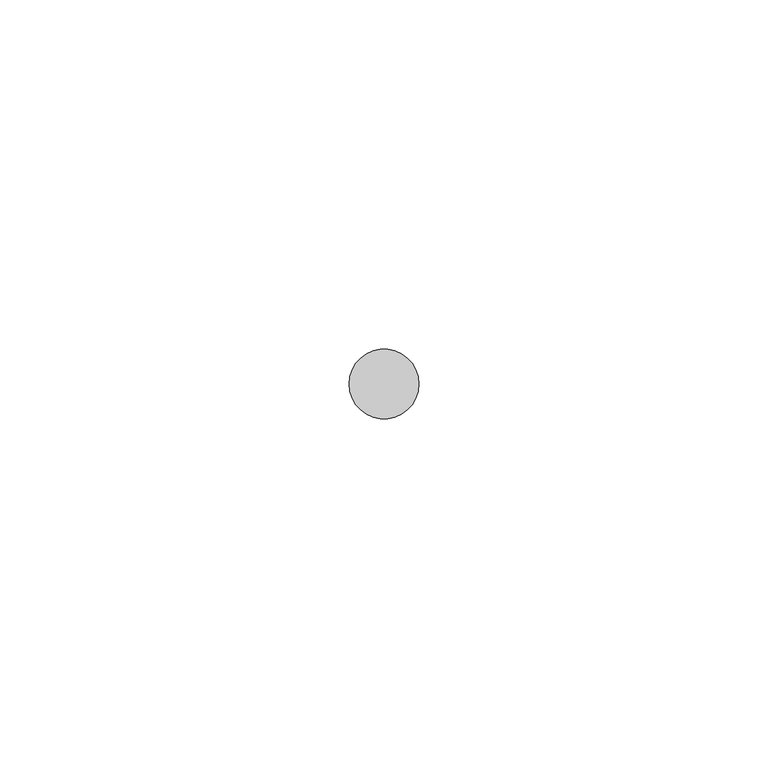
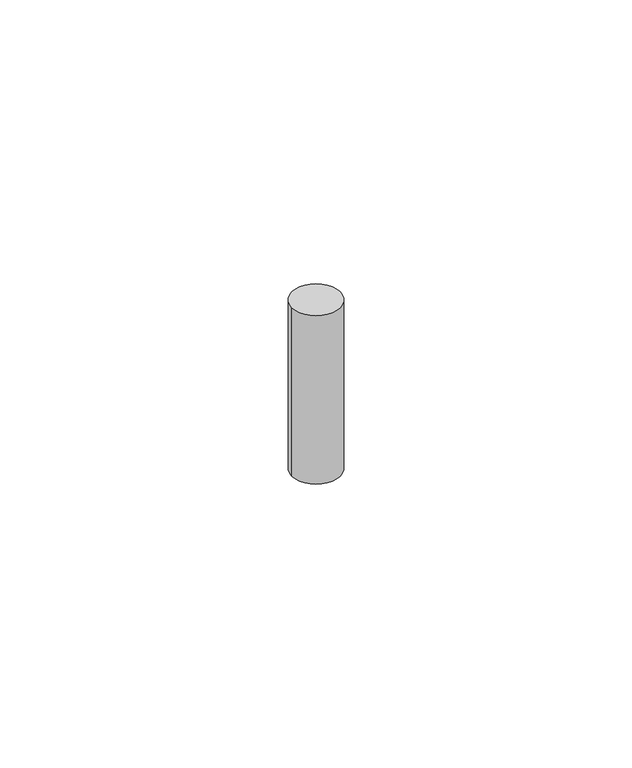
"""IFC4 building model written with IfcOpenShell, lengths in millimetres: cable carrier fitting geometry, x. Fixaçoes Eletricas_Chumbador de Expansão : Chumbador de Expansão."""

from ifc_helpers import new_model, si_unit, point, frame, origin, origin_2d, place, context, project, spatial, circle_curve, trimmed, segment, composite_curve, outline, extrude, source, transform, mapped, element, save


def cable_carrier_fitting_4bd9d3f5(model_context):
    return source(origin(), model_context, "Body", "SweptSolid", [
        extrude(outline(composite_curve([segment(trimmed(circle_curve(origin_2d(), 5.0), [point((-5.0, 0.0))], [point((5.0, 0.0))], False, "CARTESIAN"), True, "CONTINUOUS"), segment(trimmed(circle_curve(origin_2d(), 5.0), [point((5.0, 0.0))], [point((-5.0, 0.0))], False, "CARTESIAN"), True, "CONTINUOUS")], self_intersect=False)), frame((0.0, 0.0, -37.0), z_axis=(0.0, 0.0, 1.0), x_axis=(1.0, 0.0, 0.0)), (0.0, 0.0, 1.0), 37.0),
    ])


if __name__ == "__main__":
    model = new_model("IFC4")
    model_context = context("Model", 3, world=origin())
    ifc_project = project(units=[si_unit("LENGTHUNIT", "METRE", prefix="MILLI")], contexts=[model_context])
    site = spatial("IfcSite", under=ifc_project)
    building = spatial("IfcBuilding", under=site)
    placement = place(None, origin())
    cable_carrier_fitting_shape = cable_carrier_fitting_4bd9d3f5(model_context)
    element("IfcCableCarrierFitting", 1, ObjectType="x. Fixaçoes Eletricas_Chumbador de Expansão : Chumbador de Expansão", at=placement, inside=building, context=model_context, shape_type="MappedRepresentation", body=[
        mapped(cable_carrier_fitting_shape, transform((0.0, 0.0, 0.0), x_axis=(1.0, 0.0, 0.0), y_axis=(0.0, 1.0, 0.0), z_axis=(0.0, 0.0, 1.0))),
    ])
    save(model, "model.ifc")
